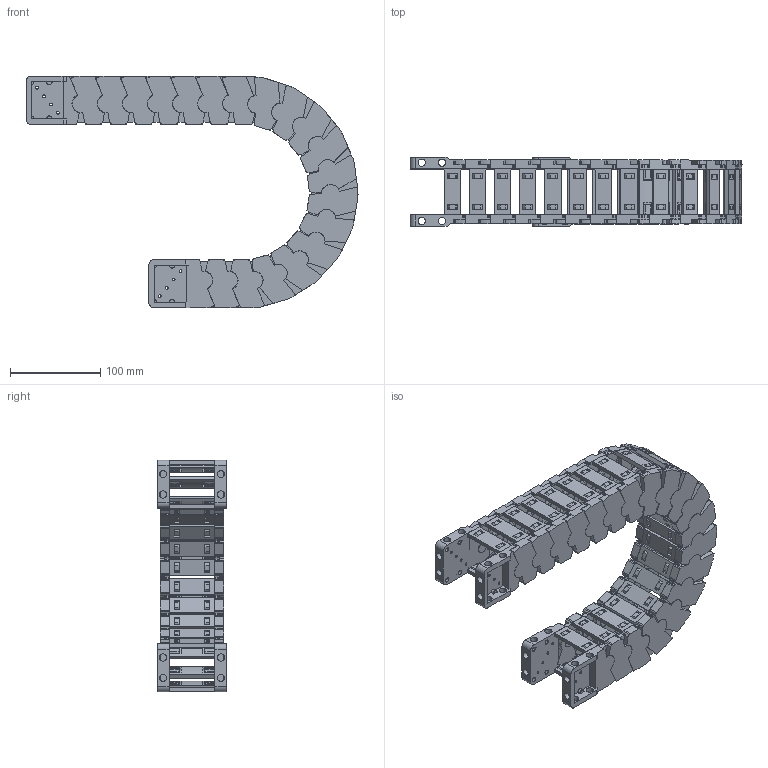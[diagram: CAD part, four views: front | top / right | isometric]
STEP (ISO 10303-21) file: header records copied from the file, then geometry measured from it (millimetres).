
FILE_DESCRIPTION((''),'2;1');
FILE_NAME('JY-42X50-R100_ASM','2022-05-06T10:52:43',('admin'),(''),'CREO PARAMETRIC BY PTC INC, 2021164','CREO PARAMETRIC BY PTC INC, 2021164','');
FILE_SCHEMA(('CONFIG_CONTROL_DESIGN','GEOMETRIC_VALIDATION_PROPERTIES_MIM'));
Length unit declared in the file: millimetre
Products named in the file (11): 42XL-L; 42-52XL-YP; 42XL-R; ASM0001_ASM; 42-LTT-A-L; 42-LTT-A-R; 42XL-LTT-A_ASM; 42-LTT-B-L; 42-LTT-B-R; 42XL-LTT-B_ASM; JY-42X50-R100_ASM
Assembly tree (33 placements, depth 3):
  JY-42X50-R100_ASM
    ASM0001_ASM  x19
      42XL-L
      42-52XL-YP
      42XL-R
    42XL-LTT-A_ASM
      42-LTT-A-L
      42-52XL-YP  x2
      42-LTT-A-R
    42XL-LTT-B_ASM
      42-LTT-B-L
      42-52XL-YP  x2
      42-LTT-B-R
Bounding box: 367.66 x 76.5 x 256.52 mm (x, y, z)
Volume: 744185.9 mm3; surface area: 438030.7 mm2
Topology: 84 solids, 84 shells, 4608 faces, 13808 edges, 9344 vertices
Faces by surface type: plane 3070, cylinder 1068, cone 380, bspline 72, torus 18
Entity records: 27251 total; most frequent: CARTESIAN_POINT 7390, ORIENTED_EDGE 4024, DIRECTION 3964, EDGE_CURVE 2012, AXIS2_PLACEMENT_3D 1432, VERTEX_POINT 1360, VECTOR 1100, LINE 1100
